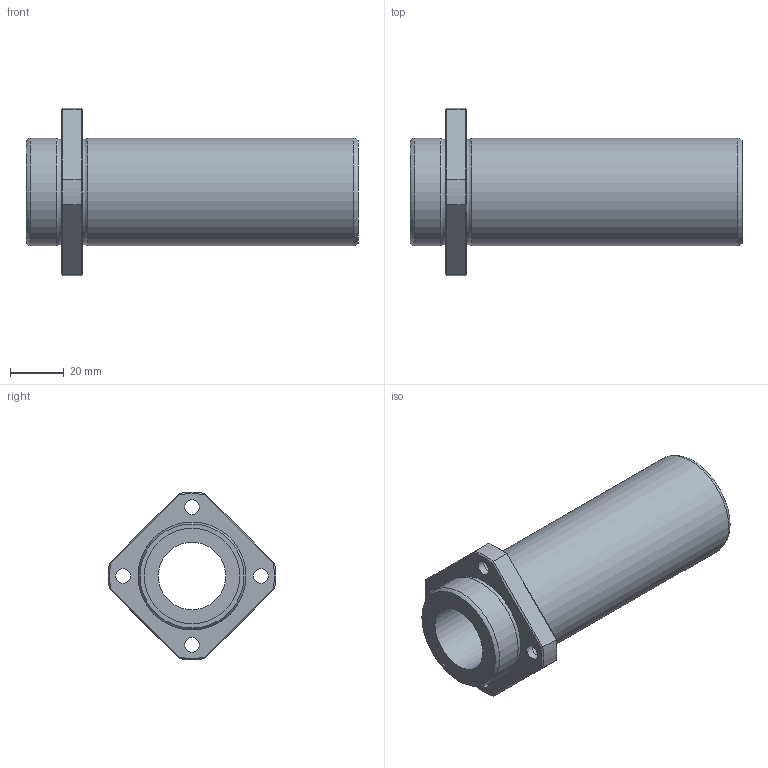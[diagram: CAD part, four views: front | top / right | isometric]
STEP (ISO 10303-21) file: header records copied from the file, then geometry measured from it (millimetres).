
FILE_DESCRIPTION((''),'2;1');
FILE_NAME('D:\製品 (図面)\カタログ用3D\メンテナンスフリー関連\STEP形式\LFDKB-MF\LFDKB25MF.stp','2010-06-01T15:41:22',('Tsuchiya'),(''),'Autodesk Inventor 10','Autodesk Inventor 10','');
FILE_SCHEMA(('AUTOMOTIVE_DESIGN { 1 0 10303 214 1 1 1 1 }'));
Length unit declared in the file: millimetre
Products named in the file (1): LFDKB25MF
Bounding box: 123 x 61.92 x 61.92 mm (x, y, z)
Volume: 101459 mm3; surface area: 29927 mm2
Topology: 1 solids, 1 shells, 51 faces, 103 edges, 62 vertices
Faces by surface type: plane 18, bspline 14, cylinder 9, cone 8, torus 2
Full cylindrical faces by diameter (mm): 25 x1, 35.3 x2, 40 x2
Entity records: 1517 total; most frequent: CARTESIAN_POINT 520, DIRECTION 192, ORIENTED_EDGE 172, EDGE_CURVE 86, EDGE_LOOP 86, AXIS2_PLACEMENT_3D 84, VERTEX_POINT 62, FACE_OUTER_BOUND 51
